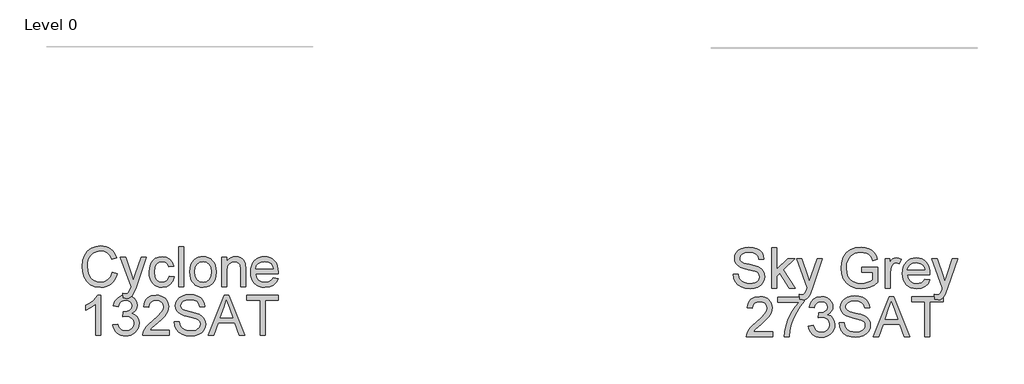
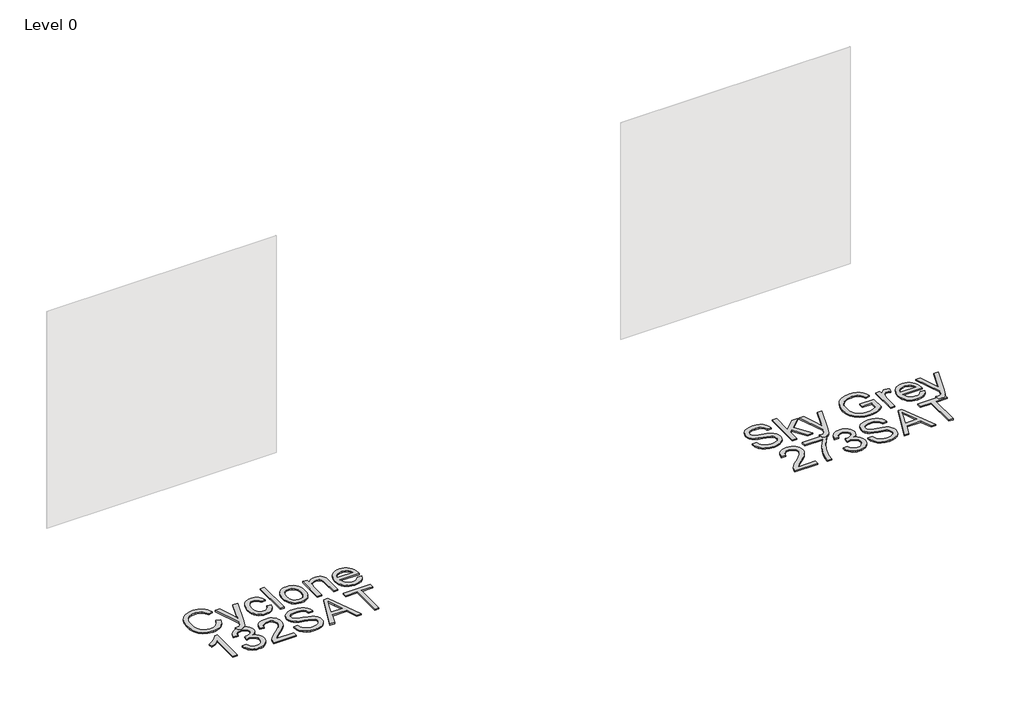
# One storey, part 35 of 37: 2 proxies.
"""IFC4 building model written with IfcOpenShell, lengths in millimetres."""

from ifc_helpers import new_model, si_unit, origin, origin_with_axes, place, context, project, spatial, polyline, outline, extrude, element, save

model = new_model("IFC4")

# Units and contexts
model_context = context("Model", 3, world=origin())
ifc_project = project(units=[si_unit("LENGTHUNIT", "METRE", prefix="MILLI")], contexts=[model_context])

# Site, building, storey
site = spatial("IfcSite", under=ifc_project)
building = spatial("IfcBuilding", under=site)
storey = spatial("IfcBuildingStorey", under=building, Name="Level 0", Elevation=0.0)

# Proxies
placement = place(None, origin())
element("IfcBuildingElementProxy", 1, Name="300mm Arial", ObjectType="300mm Arial", at=placement, inside=storey, context=model_context, shape_type="SweptSolid", body=[
    extrude(outline(polyline([(33043.1363183, -6895.733257), (33080.8074346, -6905.4453417), (33073.3532257, -6928.872527), (33063.4250104, -6949.3428607), (33051.0227886, -6966.856343), (33036.1465604, -6981.4129737), (33019.1320181, -6992.856403), (33000.3148541, -7001.0302811), (32979.6950683, -7005.9346079), (32957.2726607, -7007.5693835), (32913.5774767, -7002.6213707), (32878.8770075, -6987.7773322), (32852.2791392, -6963.5523028), (32832.8917581, -6930.4613173), (32821.0551549, -6891.5577963), (32817.1096205, -6849.8951604), (32821.5701897, -6805.9516561), (32834.9518973, -6768.0046283), (32856.5557674, -6737.2588905), (32885.6828244, -6714.9192564), (32920.2269437, -6701.3168196), (32958.082001, -6696.782674), (32999.3859521, -6702.6503918), (33017.3546883, -6709.9850391), (33033.5345983, -6720.2535453), (33047.6589676, -6733.1845974), (33059.4610819, -6748.5068825), (33076.0985451, -6786.3251516), (33038.4274288, -6795.3014723), (33025.367618, -6767.8298843), (33007.5253412, -6748.9851291), (32984.6798693, -6738.086625), (32956.6104731, -6734.4537903), (32924.2552516, -6738.4820981), (32897.6757774, -6750.5670217), (32877.5066471, -6769.439368), (32864.3824569, -6793.8299443), (32857.1811668, -6821.4026999), (32854.7807368, -6849.821584), (32857.6226252, -6884.6232207), (32866.1482904, -6914.7159679), (32880.6796293, -6938.9501944), (32901.5385384, -6956.1762688), (32926.545317, -6966.4677676), (32953.5202643, -6969.8982672), (32984.9649778, -6965.2261659), (33011.1673729, -6951.2098619), (33030.9502272, -6927.996508), (33043.1363183, -6895.733257)])), origin_with_axes(), (0.0, 0.0, 1.0), 10.0),
    extrude(outline(polyline([(33127.89633, -7087.6205057), (33123.1874405, -7051.3473409), (33142.3173042, -7054.6582789), (33160.1963692, -7050.5012124), (33171.1592527, -7038.9129295), (33181.4599485, -7011.1746271), (33184.4030045, -7002.0511536), (33104.3518823, -6781.5426857), (33144.0831378, -6781.5426857), (33186.53672, -6904.4152721), (33201.3255763, -6953.5643066), (33216.1144325, -6910.1542312), (33259.7452371, -6781.5426857), (33299.182187, -6781.5426857), (33222.1476972, -7008.1579947), (33202.1349166, -7057.3070293), (33191.8894031, -7072.9971964), (33180.2827261, -7083.8681093), (33166.799851, -7090.2140737), (33150.9257429, -7092.3293952), (33127.89633, -7087.6205057)])), origin_with_axes(), (0.0, 0.0, 1.0), 10.0),
    extrude(outline(polyline([(33471.6452663, -6922.8093718), (33509.3163826, -6927.5182614), (33498.8133517, -6961.0231141), (33479.0764826, -6986.3425924), (33451.9635796, -7002.2626857), (33419.3324466, -7007.5693835), (33398.2045238, -7005.7184772), (33379.2609003, -7000.1657584), (33362.5015761, -6990.9112269), (33347.9265513, -6977.9548829), (33336.1290356, -6961.5404481), (33327.7022386, -6941.9116444), (33322.6461605, -6919.0684718), (33320.9608011, -6893.0109302), (33323.8394777, -6859.4876834), (33332.4755075, -6830.4342028), (33347.0068463, -6806.9725286), (33367.5714499, -6790.2247008), (33392.1735583, -6780.1815223), (33418.8174118, -6776.8337961), (33450.6484014, -6781.4323211), (33476.0966385, -6795.2278959), (33494.3527825, -6817.4847566), (33504.6074931, -6847.4671392), (33466.9363768, -6852.1760288), (33460.1029687, -6835.7409006), (33449.461982, -6823.9594797), (33435.6020278, -6816.8685543), (33419.1117174, -6814.5049125), (33394.7671264, -6819.1586197), (33375.4441246, -6833.1197414), (33362.8349692, -6857.1424357), (33358.6319174, -6891.9808606), (33362.7429987, -6927.2883351), (33375.0762426, -6951.3938029), (33394.0497565, -6965.2721511), (33418.0816478, -6969.8982672), (33437.5885906, -6967.0103936), (33453.5822603, -6958.3467726), (33465.2165284, -6943.6866751), (33471.6452663, -6922.8093718)])), origin_with_axes(), (0.0, 0.0, 1.0), 10.0),
    extrude(outline(polyline([(33542.2786094, -7002.860494), (33542.2786094, -6701.4915635), (33579.9497257, -6701.4915635), (33579.9497257, -7002.860494), (33542.2786094, -7002.860494)])), origin_with_axes(), (0.0, 0.0, 1.0), 10.0),
    extrude(outline(polyline([(33627.0386211, -6892.2015898), (33629.0757676, -6863.5389839), (33635.1872073, -6838.8403064), (33645.37294, -6818.1055575), (33659.6329658, -6801.334737), (33673.9895607, -6790.6155754), (33689.8360777, -6782.9590314), (33707.1725167, -6778.3651049), (33725.9988778, -6776.8337961), (33746.7819112, -6778.698498), (33765.5737834, -6784.2926036), (33782.3744943, -6793.6161129), (33797.1840438, -6806.669026), (33809.2712666, -6823.0098843), (33817.9049972, -6842.1972296), (33823.0852356, -6864.2310619), (33824.8119817, -6889.1113811), (33821.7585611, -6927.1687735), (33812.5982994, -6956.1394806), (33797.5979111, -6977.8353213), (33777.0241105, -6994.0681143), (33752.587549, -7004.1940662), (33725.9988778, -7007.5693835), (33704.9123417, -7005.7115794), (33685.9457256, -7000.1381672), (33669.0990294, -6990.8491468), (33654.3722533, -6977.8445183), (33642.4137892, -6961.3450108), (33633.8720291, -6941.5713536), (33628.7469731, -6918.5235466), (33627.0386211, -6892.2015898)]), holes=[polyline([(33664.7097374, -6892.1280134), (33669.069139, -6926.2214773), (33682.147344, -6950.5108861), (33701.8290307, -6965.0514219), (33725.9988778, -6969.8982672), (33750.0583603, -6965.0238308), (33769.7032588, -6950.4005215), (33782.7814637, -6925.789216), (33787.1408654, -6890.950791), (33782.7538726, -6857.8506085), (33769.5928942, -6833.8922936), (33749.9204045, -6819.3517577), (33725.9988778, -6814.5049125), (33701.8290307, -6819.3333636), (33682.147344, -6833.8187172), (33669.069139, -6858.0529436), (33664.7097374, -6892.1280134)])]), origin_with_axes(), (0.0, 0.0, 1.0), 10.0),
    extrude(outline(polyline([(33867.1919875, -7002.860494), (33867.1919875, -6781.5426857), (33904.8631038, -6781.5426857), (33904.8631038, -6812.4447733), (33917.9505058, -6796.8649708), (33933.6682641, -6785.7365404), (33952.0163786, -6779.0594822), (33972.9948493, -6776.8337961), (33991.563693, -6778.6272209), (34008.5690383, -6784.0074951), (34022.7508892, -6792.303234), (34032.84925, -6802.8430532), (34044.1432272, -6830.5445674), (34046.12979, -6866.964885), (34046.12979, -7002.860494), (34008.4586737, -7002.860494), (34008.4586737, -6872.0416565), (34004.1176661, -6838.7115477), (33998.1119926, -6828.7879309), (33988.7769869, -6821.0900002), (33976.811625, -6816.1511844), (33962.9148827, -6814.5049125), (33940.85116, -6818.2021265), (33922.043193, -6829.2937687), (33914.526904, -6838.3482643), (33909.1581261, -6850.7228949), (33904.8631038, -6885.4325611), (33904.8631038, -7002.860494), (33867.1919875, -7002.860494)])), origin_with_axes(), (0.0, 0.0, 1.0), 10.0),
    extrude(outline(polyline([(34252.8794713, -6936.9360404), (34289.8148236, -6941.64493), (34276.5066924, -6969.4752029), (34255.2707042, -6990.2789297), (34226.5851057, -7003.2467701), (34190.9281433, -7007.5693835), (34167.553841, -7005.7046817), (34146.7271216, -7000.1105761), (34128.4479849, -6990.7870668), (34112.7164311, -6977.7341537), (34100.065889, -6961.3151204), (34091.0297875, -6941.8932503), (34085.6081266, -6919.4685435), (34083.8009063, -6894.0409998), (34085.6265207, -6867.7512327), (34091.1033639, -6844.5792656), (34100.2314359, -6824.5250983), (34113.0107367, -6807.5887309), (34128.7009038, -6794.133447), (34146.5615747, -6784.5225298), (34166.5927493, -6778.7559796), (34188.7944277, -6776.8337961), (34210.2810355, -6778.751381), (34229.7121026, -6784.5041357), (34247.0876291, -6794.0920602), (34262.4076149, -6807.5151545), (34274.9133035, -6824.4147337), (34283.8459382, -6844.4321128), (34289.205519, -6867.5672917), (34290.992046, -6893.8202706), (34290.7713168, -6903.9738137), (34121.4720226, -6903.9738137), (34127.992731, -6932.1719686), (34143.1402721, -6952.902119), (34165.0016597, -6965.6492302), (34191.6639073, -6969.8982672), (34211.713476, -6967.9300985), (34228.5992596, -6962.0255925), (34242.321258, -6951.8168672), (34252.8794713, -6936.9360404)]), holes=[polyline([(34121.4720226, -6866.3026974), (34253.3209297, -6866.3026974), (34248.225764, -6846.4002814), (34238.2377679, -6832.1632482), (34216.2752127, -6818.9194964), (34188.6472749, -6814.5049125), (34163.2542202, -6818.0273826), (34142.2573553, -6828.5947929), (34127.6616372, -6845.0667092), (34121.4720226, -6866.3026974)])]), origin_with_axes(), (0.0, 0.0, 1.0), 10.0),
    extrude(outline(polyline([(32958.3763066, -7368.7849475), (32920.7051903, -7368.7849475), (32920.7051903, -7133.9290818), (32885.0206368, -7159.3497277), (32845.3629577, -7178.3692268), (32845.3629577, -7142.7582497), (32874.9498672, -7126.6634124), (32900.5820452, -7107.5151545), (32920.7879638, -7087.1528861), (32934.096095, -7067.4160171), (32958.3763066, -7067.4160171), (32958.3763066, -7368.7849475)])), origin_with_axes(), (0.0, 0.0, 1.0), 10.0),
    extrude(outline(polyline([(33047.8452079, -7288.7338254), (33085.5163242, -7284.0249358), (33093.9500189, -7307.6981422), (33106.3016569, -7323.6826149), (33123.1782434, -7332.7876943), (33145.1867838, -7335.8227207), (33171.0120999, -7331.6472601), (33190.951304, -7319.1208782), (33203.6984151, -7300.4324728), (33207.9474522, -7277.7709419), (33203.7352033, -7256.2590422), (33191.0984568, -7238.8122386), (33171.968593, -7227.2515469), (33148.2769926, -7223.397983), (33121.8630653, -7227.5182614), (33126.05692, -7189.8471451), (33132.0901848, -7190.2886035), (33154.6597452, -7187.5846708), (33174.8380726, -7179.4728728), (33189.0751058, -7165.7508744), (33193.8207836, -7146.2163404), (33190.3810869, -7129.9467592), (33180.0619969, -7116.7489926), (33164.3166475, -7108.0025982), (33144.5981726, -7105.0871334), (33124.8429095, -7108.0301893), (33108.6928899, -7116.8593572), (33096.9022719, -7131.574637), (33090.2252137, -7152.1760288), (33052.5540974, -7147.4671392), (33063.6457396, -7113.6403898), (33083.3826086, -7088.3852908), (33110.385147, -7072.6583355), (33143.2737974, -7067.4160171), (33166.9562009, -7070.0003881), (33188.7072238, -7077.7535011), (33207.0461413, -7089.9855775), (33220.4922282, -7106.0068384), (33228.7419819, -7124.4653175), (33231.4918999, -7144.0090485), (33228.8799377, -7162.2192072), (33221.0440512, -7178.7371088), (33208.094605, -7192.8085951), (33190.1419636, -7203.6795081), (33213.7231995, -7213.2076518), (33231.1975943, -7229.4312477), (33242.0133249, -7251.4673793), (33245.6185685, -7278.4331295), (33243.8159467, -7297.5445992), (33238.4080814, -7315.1477526), (33229.3949725, -7331.2425899), (33216.7766201, -7345.829111), (33201.4037512, -7357.9324287), (33184.127093, -7366.5776555), (33164.9466455, -7371.7647917), (33143.8624086, -7373.4938371), (33124.8061213, -7372.0177105), (33107.4420911, -7367.589331), (33091.7703181, -7360.2086985), (33077.7908023, -7349.875813), (33066.0691622, -7337.1976797), (33057.1710164, -7322.781304), (33051.096365, -7306.6266859), (33047.8452079, -7288.7338254)])), origin_with_axes(), (0.0, 0.0, 1.0), 10.0),
    extrude(outline(polyline([(33471.6452663, -7331.1138312), (33471.6452663, -7368.7849475), (33273.8719057, -7368.7849475), (33277.9186077, -7342.8124787), (33287.207628, -7322.5145896), (33300.8008678, -7302.8237058), (33320.4641604, -7282.213117), (33347.9633395, -7259.156113), (33388.6143, -7223.0484951), (33413.0048763, -7196.3954446), (33425.2001644, -7174.7639833), (33429.2652605, -7153.7211331), (33425.4300907, -7134.8579838), (33413.9245813, -7119.1770138), (33396.2386543, -7108.6096035), (33373.862232, -7105.0871334), (33350.3637696, -7108.52683), (33332.1076255, -7118.84592), (33320.3262046, -7135.2350629), (33316.2519115, -7156.8849183), (33278.5807952, -7152.1760288), (33287.7134658, -7115.7373171), (33296.2598244, -7101.2013798), (33307.4595319, -7089.1210548), (33321.0550708, -7079.6251008), (33336.7889239, -7072.8422765), (33374.6715724, -7067.4160171), (33394.8613961, -7068.9243332), (33412.8301323, -7073.4492818), (33428.577781, -7080.9908627), (33442.1043421, -7091.549076), (33452.9683573, -7104.3421723), (33460.7283681, -7118.5884026), (33465.3843746, -7134.2877667), (33466.9363768, -7151.4402648), (33465.2625137, -7169.4572855), (33460.2409245, -7187.1616065), (33451.3289831, -7205.1694302), (33437.9840638, -7224.0969588), (33416.7112874, -7246.6941104), (33384.0157751, -7275.7108027), (33340.679276, -7311.9471793), (33323.6831279, -7331.1138312), (33471.6452663, -7331.1138312)])), origin_with_axes(), (0.0, 0.0, 1.0), 10.0),
    extrude(outline(polyline([(33509.3163826, -7265.1893777), (33546.9874989, -7265.1893777), (33551.3101124, -7286.0942721), (33559.1276048, -7302.8972822), (33571.3228929, -7316.2330045), (33588.7788936, -7326.7360355), (33610.1160493, -7333.5510494), (33633.9548026, -7335.8227207), (33654.9424704, -7334.1028724), (33673.3181761, -7328.9433274), (33688.2081998, -7320.7763471), (33698.7388219, -7310.0341929), (33705.0020129, -7297.700949), (33707.0897432, -7284.7606998), (33705.5262447, -7272.1515444), (33700.8357493, -7261.2530403), (33691.3076056, -7251.9548229), (33675.2311624, -7244.1465276), (33620.379957, -7229.7623415), (33584.3735067, -7220.2433949), (33561.3348967, -7211.1843008), (33542.582112, -7198.510766), (33529.292375, -7183.1516928), (33521.373715, -7165.4381747), (33518.7341617, -7145.7013056), (33521.9991144, -7123.637583), (33531.7939725, -7103.0637824), (33547.8612187, -7085.6261758), (33569.9433354, -7072.9710352), (33596.4492332, -7065.2731044), (33625.7878223, -7062.7071275), (33657.5728267, -7065.3926661), (33685.3847055, -7073.4492818), (33708.2301774, -7086.7114277), (33725.115961, -7105.013557), (33735.8029329, -7127.2152354), (33740.05197, -7152.1760288), (33702.3808537, -7152.1760288), (33695.4646722, -7129.6984389), (33681.043698, -7113.4748429), (33658.5109258, -7103.6523936), (33627.2593503, -7100.3782438), (33595.2720108, -7103.6156054), (33573.3278498, -7113.3276901), (33560.6359209, -7127.6199056), (33556.405278, -7144.5976597), (33559.4035163, -7159.0738162), (33568.398231, -7170.7172813), (33589.6618104, -7181.1283418), (33629.9081006, -7191.7601314), (33671.4419779, -7201.8584922), (33696.5683182, -7210.669266), (33718.0434296, -7224.3360821), (33733.0254239, -7241.2034716), (33741.8270006, -7261.0874934), (33744.7608595, -7283.8042066), (33741.3855422, -7307.0267576), (33731.2595903, -7328.869751), (33714.796871, -7347.668521), (33692.4112516, -7361.7584014), (33665.4914866, -7370.5599781), (33635.4263306, -7373.4938371), (33598.5185694, -7370.3300519), (33568.1407136, -7360.8386964), (33543.9432754, -7344.9829824), (33525.5767668, -7322.7261217), (33513.7861489, -7295.6132187), (33509.3163826, -7265.1893777)])), origin_with_axes(), (0.0, 0.0, 1.0), 10.0),
    extrude(outline(polyline([(33766.1715916, -7368.7849475), (33886.4690041, -7067.4160171), (33918.5483141, -7067.4160171), (34038.8457265, -7368.7849475), (33999.0408946, -7368.7849475), (33964.5335634, -7274.6071568), (33840.4101783, -7274.6071568), (33805.9764235, -7368.7849475), (33766.1715916, -7368.7849475)]), holes=[polyline([(33854.2425413, -7236.9360404), (33950.7747768, -7236.9360404), (33923.6250856, -7162.8446066), (33902.5086591, -7105.0871334), (33883.7466773, -7156.3698835), (33854.2425413, -7236.9360404)])]), origin_with_axes(), (0.0, 0.0, 1.0), 10.0),
    extrude(outline(polyline([(34154.4342494, -7368.7849475), (34154.4342494, -7105.0871334), (34055.5475691, -7105.0871334), (34055.5475691, -7067.4160171), (34290.992046, -7067.4160171), (34290.992046, -7105.0871334), (34192.1053657, -7105.0871334), (34192.1053657, -7368.7849475), (34154.4342494, -7368.7849475)])), origin_with_axes(), (0.0, 0.0, 1.0), 10.0),
])
element("IfcBuildingElementProxy", 2, Name="300mm Arial", ObjectType="300mm Arial", at=placement, inside=storey, context=model_context, shape_type="SweptSolid", body=[
    extrude(outline(polyline([(37713.5140507, -6909.2649241), (37751.185167, -6909.2649241), (37755.5077804, -6930.1698185), (37763.3252728, -6946.9728286), (37775.5205609, -6960.308551), (37792.9765616, -6970.8115819), (37814.3137173, -6977.6265959), (37838.1524706, -6979.8982672), (37859.1401384, -6978.1784189), (37877.5158441, -6973.0188739), (37892.4058679, -6964.8518936), (37902.93649, -6954.1097394), (37909.1996809, -6941.7764955), (37911.2874113, -6928.8362463), (37909.7239128, -6916.2270909), (37905.0334173, -6905.3285868), (37895.5052737, -6896.0303694), (37879.4288305, -6888.222074), (37824.577625, -6873.837888), (37788.5711747, -6864.3189414), (37765.5325648, -6855.2598472), (37746.7797801, -6842.5863125), (37733.490043, -6827.2272392), (37725.571383, -6809.5137211), (37722.9318297, -6789.7768521), (37726.1967824, -6767.7131294), (37735.9916406, -6747.1393289), (37752.0588867, -6729.7017223), (37774.1410035, -6717.0465817), (37800.6469012, -6709.3486509), (37829.9854903, -6706.782674), (37861.7704947, -6709.4682126), (37889.5823735, -6717.5248283), (37912.4278454, -6730.7869742), (37929.313629, -6749.0891034), (37940.000601, -6771.2907818), (37944.249638, -6796.2515752), (37906.5785217, -6796.2515752), (37899.6623402, -6773.7739853), (37885.241366, -6757.5503893), (37862.7085938, -6747.7279401), (37831.4570183, -6744.4537903), (37799.4696788, -6747.6911519), (37777.5255178, -6757.4032365), (37764.833589, -6771.695452), (37760.602946, -6788.6732061), (37763.6011843, -6803.1493626), (37772.5958991, -6814.7928278), (37793.8594784, -6825.2038882), (37834.1057687, -6835.8356779), (37875.6396459, -6845.9340387), (37900.7659862, -6854.7448125), (37922.2410977, -6868.4116286), (37937.2230919, -6885.2790181), (37946.0246687, -6905.1630399), (37948.9585276, -6927.8797531), (37945.5832103, -6951.102304), (37935.4572583, -6972.9452975), (37918.9945391, -6991.7440675), (37896.6089197, -7005.8339479), (37869.6891547, -7014.6355246), (37839.6239986, -7017.5693835), (37802.7162374, -7014.4055984), (37772.3383817, -7004.9142429), (37748.1409434, -6989.0585289), (37729.7744348, -6966.8016682), (37717.9838169, -6939.6887651), (37713.5140507, -6909.2649241)])), origin_with_axes(), (0.0, 0.0, 1.0), 10.0),
    extrude(outline(polyline([(38000.7563125, -7012.860494), (38000.7563125, -6711.4915635), (38038.4274288, -6711.4915635), (38038.4274288, -6873.4332178), (38122.8931349, -6791.5426857), (38174.9852254, -6791.5426857), (38089.4894497, -6874.4632874), (38179.6941149, -7012.860494), (38135.6954283, -7012.860494), (38062.4869113, -6900.6564855), (38038.4274288, -6923.9802039), (38038.4274288, -7012.860494), (38000.7563125, -7012.860494)])), origin_with_axes(), (0.0, 0.0, 1.0), 10.0),
    extrude(outline(polyline([(38212.6563417, -7097.6205057), (38207.9474522, -7061.3473409), (38227.0773159, -7064.6582789), (38244.9563809, -7060.5012124), (38255.9192643, -7048.9129295), (38266.2199602, -7021.1746271), (38269.1630162, -7012.0511536), (38189.111894, -6791.5426857), (38228.8431495, -6791.5426857), (38271.2967317, -6914.4152721), (38286.0855879, -6963.5643066), (38300.8744442, -6920.1542312), (38344.5052488, -6791.5426857), (38383.9421987, -6791.5426857), (38306.9077089, -7018.1579947), (38286.8949283, -7067.3070293), (38276.6494148, -7082.9971964), (38265.0427378, -7093.8681093), (38251.5598627, -7100.2140737), (38235.6857546, -7102.3293952), (38212.6563417, -7097.6205057)])), origin_with_axes(), (0.0, 0.0, 1.0), 10.0),
    extrude(outline(polyline([(38678.836406, -6895.1382555), (38678.836406, -6857.4671392), (38801.267534, -6857.4671392), (38801.267534, -6970.1126061), (38771.5150776, -6990.8059684), (38740.8245222, -7005.6500069), (38709.269444, -7014.5895394), (38676.9234196, -7017.5693835), (38634.6629754, -7012.8329028), (38596.4676273, -6998.6234608), (38564.7378052, -6975.437698), (38541.8739392, -6943.7722553), (38528.0507732, -6905.7884393), (38523.4430512, -6863.6475567), (38528.0323791, -6821.2031715), (38541.8003628, -6781.7202364), (38564.1767851, -6748.6016598), (38594.5914291, -6725.2503502), (38631.637146, -6711.399593), (38673.9067873, -6706.782674), (38704.9376336, -6709.4590155), (38732.8414829, -6717.4880401), (38756.3399453, -6730.2903335), (38774.1546309, -6747.2864817), (38787.3340034, -6769.295022), (38796.9265264, -6797.134492), (38762.1984661, -6806.9201531), (38754.4453531, -6787.0637224), (38745.0183769, -6772.0817281), (38732.5471773, -6760.7877509), (38715.6613937, -6751.9953712), (38695.5290515, -6746.3391855), (38673.3181761, -6744.4537903), (38647.3181161, -6746.4863383), (38625.0888465, -6752.5839824), (38606.7131408, -6761.9833674), (38592.2737725, -6773.9211381), (38572.8863914, -6802.9470275), (38564.0572235, -6831.3843058), (38561.1141675, -6862.1024524), (38564.6550317, -6898.1272967), (38575.2776244, -6927.7693885), (38592.6600486, -6950.8171955), (38616.4804078, -6967.0591856), (38644.356666, -6976.6884968), (38673.9067873, -6979.8982672), (38699.9988178, -6977.4794431), (38725.4470548, -6970.2229707), (38747.5475656, -6960.2257775), (38763.5964177, -6949.5847908), (38763.5964177, -6895.1382555), (38678.836406, -6895.1382555)])), origin_with_axes(), (0.0, 0.0, 1.0), 10.0),
    extrude(outline(polyline([(38857.7742084, -7012.860494), (38857.7742084, -6791.5426857), (38890.7364352, -6791.5426857), (38890.7364352, -6824.2841833), (38902.9133293, -6805.3014723), (38914.1337301, -6794.1178596), (38925.3909192, -6788.654812), (38937.6781778, -6786.8337961), (38956.4401596, -6789.7400639), (38975.4964469, -6798.4588672), (38962.9148827, -6832.2304343), (38949.6711308, -6826.4362929), (38936.427379, -6824.5049125), (38925.179387, -6826.3627165), (38915.1270115, -6831.9361288), (38907.0060165, -6840.8020848), (38901.5521659, -6852.5375205), (38896.972035, -6873.5803706), (38895.4453248, -6896.5362071), (38895.4453248, -7012.860494), (38857.7742084, -7012.860494)])), origin_with_axes(), (0.0, 0.0, 1.0), 10.0),
    extrude(outline(polyline([(39153.992791, -6946.9360404), (39190.9281433, -6951.64493), (39177.6200121, -6979.4752029), (39156.3840239, -7000.2789297), (39127.6984254, -7013.2467701), (39092.041463, -7017.5693835), (39068.6671607, -7015.7046817), (39047.8404413, -7010.1105761), (39029.5613046, -7000.7870668), (39013.8297508, -6987.7341537), (39001.1792087, -6971.3151204), (38992.1431072, -6951.8932503), (38986.7214463, -6929.4685435), (38984.914226, -6904.0409998), (38986.7398404, -6877.7512327), (38992.2166836, -6854.5792656), (39001.3447556, -6834.5250983), (39014.1240564, -6817.5887309), (39029.8142235, -6804.133447), (39047.6748944, -6794.5225298), (39067.706069, -6788.7559796), (39089.9077474, -6786.8337961), (39111.3943552, -6788.751381), (39130.8254223, -6794.5041357), (39148.2009488, -6804.0920602), (39163.5209346, -6817.5151545), (39176.0266232, -6834.4147337), (39184.9592579, -6854.4321128), (39190.3188387, -6877.5672917), (39192.1053657, -6903.8202706), (39191.8846365, -6913.9738137), (39022.5853423, -6913.9738137), (39029.1060507, -6942.1719686), (39044.2535918, -6962.902119), (39066.1149794, -6975.6492302), (39092.777227, -6979.8982672), (39112.8267957, -6977.9300985), (39129.7125793, -6972.0255925), (39143.4345777, -6961.8168672), (39153.992791, -6946.9360404)]), holes=[polyline([(39022.5853423, -6876.3026974), (39154.4342494, -6876.3026974), (39149.3390837, -6856.4002814), (39139.3510876, -6842.1632482), (39117.3885324, -6828.9194964), (39089.7605946, -6824.5049125), (39064.3675399, -6828.0273826), (39043.370675, -6838.5947929), (39028.7749569, -6855.0667092), (39022.5853423, -6876.3026974)])]), origin_with_axes(), (0.0, 0.0, 1.0), 10.0),
    extrude(outline(polyline([(39229.776482, -7097.6205057), (39225.0675924, -7061.3473409), (39244.1974562, -7064.6582789), (39262.0765211, -7060.5012124), (39273.0394046, -7048.9129295), (39283.3401005, -7021.1746271), (39286.2831564, -7012.0511536), (39206.2320343, -6791.5426857), (39245.9632898, -6791.5426857), (39288.416872, -6914.4152721), (39303.2057282, -6963.5643066), (39317.9945844, -6920.1542312), (39361.625389, -6791.5426857), (39401.0623389, -6791.5426857), (39324.0278491, -7018.1579947), (39304.0150686, -7067.3070293), (39293.769555, -7082.9971964), (39282.1628781, -7093.8681093), (39268.680003, -7100.2140737), (39252.8058949, -7102.3293952), (39229.776482, -7097.6205057)])), origin_with_axes(), (0.0, 0.0, 1.0), 10.0),
    extrude(outline(polyline([(38010.1740916, -7341.1138312), (38010.1740916, -7378.7849475), (37812.400731, -7378.7849475), (37816.4474329, -7352.8124787), (37825.7364533, -7332.5145896), (37839.329693, -7312.8237058), (37858.9929856, -7292.213117), (37886.4921648, -7269.156113), (37927.1431253, -7233.0484951), (37951.5337015, -7206.3954446), (37963.7289897, -7184.7639833), (37967.7940857, -7163.7211331), (37963.9589159, -7144.8579838), (37952.4534065, -7129.1770138), (37934.7674796, -7118.6096035), (37912.3910572, -7115.0871334), (37888.8925948, -7118.52683), (37870.6364508, -7128.84592), (37858.8550299, -7145.2350629), (37854.7807368, -7166.8849183), (37817.1096205, -7162.1760288), (37826.242291, -7125.7373171), (37834.7886496, -7111.2013798), (37845.9883571, -7099.1210548), (37859.5838961, -7089.6251008), (37875.3177492, -7082.8422765), (37913.2003976, -7077.4160171), (37933.3902214, -7078.9243332), (37951.3589576, -7083.4492818), (37967.1066062, -7090.9908627), (37980.6331673, -7101.549076), (37991.4971825, -7114.3421723), (37999.2571934, -7128.5884026), (38003.9131999, -7144.2877667), (38005.465202, -7161.4402648), (38003.7913389, -7179.4572855), (37998.7697497, -7197.1616065), (37989.8578084, -7215.1694302), (37976.512889, -7234.0969588), (37955.2401126, -7256.6941104), (37922.5446003, -7285.7108027), (37879.2081013, -7321.9471793), (37862.2119531, -7341.1138312), (38010.1740916, -7341.1138312)])), origin_with_axes(), (0.0, 0.0, 1.0), 10.0),
    extrude(outline(polyline([(38047.8452079, -7119.7960229), (38047.8452079, -7082.1249066), (38245.6185685, -7082.1249066), (38245.6185685, -7112.5855358), (38217.4296106, -7148.2608923), (38189.5165642, -7193.6299393), (38164.8960617, -7244.5540045), (38146.5847354, -7296.8944154), (38137.6084147, -7336.0554538), (38132.6052196, -7378.7849475), (38094.9341033, -7378.7849475), (38099.0083963, -7339.9550029), (38109.9069005, -7293.8042066), (38127.33531, -7244.8850983), (38150.9993193, -7197.7502177), (38178.6272572, -7155.1402856), (38207.9474522, -7119.7960229), (38047.8452079, -7119.7960229)])), origin_with_axes(), (0.0, 0.0, 1.0), 10.0),
    extrude(outline(polyline([(38278.5807952, -7298.7338254), (38316.2519115, -7294.0249358), (38324.6856063, -7317.6981422), (38337.0372443, -7333.6826149), (38353.9138308, -7342.7876943), (38375.9223712, -7345.8227207), (38401.7476872, -7341.6472601), (38421.6868914, -7329.1208782), (38434.4340025, -7310.4324728), (38438.6830395, -7287.7709419), (38434.4707907, -7266.2590422), (38421.8340442, -7248.8122386), (38402.7041804, -7237.2515469), (38379.0125799, -7233.397983), (38352.5986527, -7237.5182614), (38356.7925074, -7199.8471451), (38362.8257721, -7200.2886035), (38385.3953325, -7197.5846708), (38405.57366, -7189.4728728), (38419.8106932, -7175.7508744), (38424.5563709, -7156.2163404), (38421.1166743, -7139.9467592), (38410.7975843, -7126.7489926), (38395.0522349, -7118.0025982), (38375.33376, -7115.0871334), (38355.5784968, -7118.0301893), (38339.4284772, -7126.8593572), (38327.6378593, -7141.574637), (38320.9608011, -7162.1760288), (38283.2896848, -7157.4671392), (38294.3813269, -7123.6403898), (38314.118196, -7098.3852908), (38341.1207344, -7082.6583355), (38374.0093848, -7077.4160171), (38397.6917882, -7080.0003881), (38419.4428112, -7087.7535011), (38437.7817287, -7099.9855775), (38451.2278156, -7116.0068384), (38459.4775693, -7134.4653175), (38462.2274872, -7154.0090485), (38459.6155251, -7172.2192072), (38451.7796386, -7188.7371088), (38438.8301923, -7202.8085951), (38420.877551, -7213.6795081), (38444.4587869, -7223.2076518), (38461.9331816, -7239.4312477), (38472.7489123, -7261.4673793), (38476.3541558, -7288.4331295), (38474.5515341, -7307.5445992), (38469.1436687, -7325.1477526), (38460.1305599, -7341.2425899), (38447.5122074, -7355.829111), (38432.1393386, -7367.9324287), (38414.8626804, -7376.5776555), (38395.6822328, -7381.7647917), (38374.597996, -7383.4938371), (38355.5417086, -7382.0177105), (38338.1776785, -7377.589331), (38322.5059055, -7370.2086985), (38308.5263896, -7359.875813), (38296.8047496, -7347.1976797), (38287.9066038, -7332.781304), (38281.8319524, -7316.6266859), (38278.5807952, -7298.7338254)])), origin_with_axes(), (0.0, 0.0, 1.0), 10.0),
    extrude(outline(polyline([(38509.3163826, -7275.1893777), (38546.9874989, -7275.1893777), (38551.3101124, -7296.0942721), (38559.1276048, -7312.8972822), (38571.3228929, -7326.2330045), (38588.7788936, -7336.7360355), (38610.1160493, -7343.5510494), (38633.9548026, -7345.8227207), (38654.9424704, -7344.1028724), (38673.3181761, -7338.9433274), (38688.2081998, -7330.7763471), (38698.7388219, -7320.0341929), (38705.0020129, -7307.700949), (38707.0897432, -7294.7606998), (38705.5262447, -7282.1515444), (38700.8357493, -7271.2530403), (38691.3076056, -7261.9548229), (38675.2311624, -7254.1465276), (38620.379957, -7239.7623415), (38584.3735067, -7230.2433949), (38561.3348967, -7221.1843008), (38542.582112, -7208.510766), (38529.292375, -7193.1516928), (38521.373715, -7175.4381747), (38518.7341617, -7155.7013056), (38521.9991144, -7133.637583), (38531.7939725, -7113.0637824), (38547.8612187, -7095.6261758), (38569.9433354, -7082.9710352), (38596.4492332, -7075.2731044), (38625.7878223, -7072.7071275), (38657.5728267, -7075.3926661), (38685.3847055, -7083.4492818), (38708.2301774, -7096.7114277), (38725.115961, -7115.013557), (38735.8029329, -7137.2152354), (38740.05197, -7162.1760288), (38702.3808537, -7162.1760288), (38695.4646722, -7139.6984389), (38681.043698, -7123.4748429), (38658.5109258, -7113.6523936), (38627.2593503, -7110.3782438), (38595.2720108, -7113.6156054), (38573.3278498, -7123.3276901), (38560.6359209, -7137.6199056), (38556.405278, -7154.5976597), (38559.4035163, -7169.0738162), (38568.398231, -7180.7172813), (38589.6618104, -7191.1283418), (38629.9081006, -7201.7601314), (38671.4419779, -7211.8584922), (38696.5683182, -7220.669266), (38718.0434296, -7234.3360821), (38733.0254239, -7251.2034716), (38741.8270006, -7271.0874934), (38744.7608595, -7293.8042066), (38741.3855422, -7317.0267576), (38731.2595903, -7338.869751), (38714.796871, -7357.668521), (38692.4112516, -7371.7584014), (38665.4914866, -7380.5599781), (38635.4263306, -7383.4938371), (38598.5185694, -7380.3300519), (38568.1407136, -7370.8386964), (38543.9432754, -7354.9829824), (38525.5767668, -7332.7261217), (38513.7861489, -7305.6132187), (38509.3163826, -7275.1893777)])), origin_with_axes(), (0.0, 0.0, 1.0), 10.0),
    extrude(outline(polyline([(38766.1715916, -7378.7849475), (38886.4690041, -7077.4160171), (38918.5483141, -7077.4160171), (39038.8457265, -7378.7849475), (38999.0408946, -7378.7849475), (38964.5335634, -7284.6071568), (38840.4101783, -7284.6071568), (38805.9764235, -7378.7849475), (38766.1715916, -7378.7849475)]), holes=[polyline([(38854.2425413, -7246.9360404), (38950.7747768, -7246.9360404), (38923.6250856, -7172.8446066), (38902.5086591, -7115.0871334), (38883.7466773, -7166.3698835), (38854.2425413, -7246.9360404)])]), origin_with_axes(), (0.0, 0.0, 1.0), 10.0),
    extrude(outline(polyline([(39154.4342494, -7378.7849475), (39154.4342494, -7115.0871334), (39055.5475691, -7115.0871334), (39055.5475691, -7077.4160171), (39290.992046, -7077.4160171), (39290.992046, -7115.0871334), (39192.1053657, -7115.0871334), (39192.1053657, -7378.7849475), (39154.4342494, -7378.7849475)])), origin_with_axes(), (0.0, 0.0, 1.0), 10.0),
])

save(model, "model.ifc")
